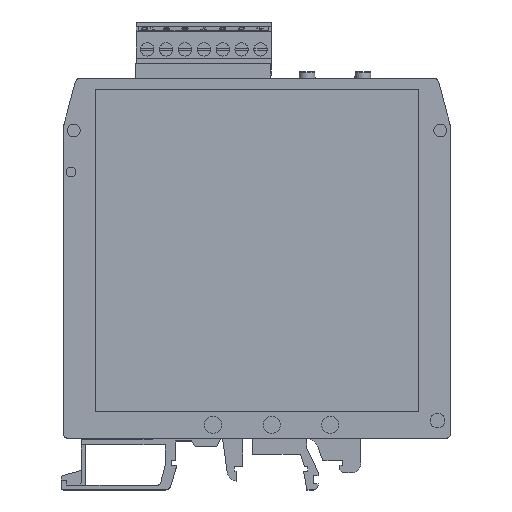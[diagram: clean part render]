
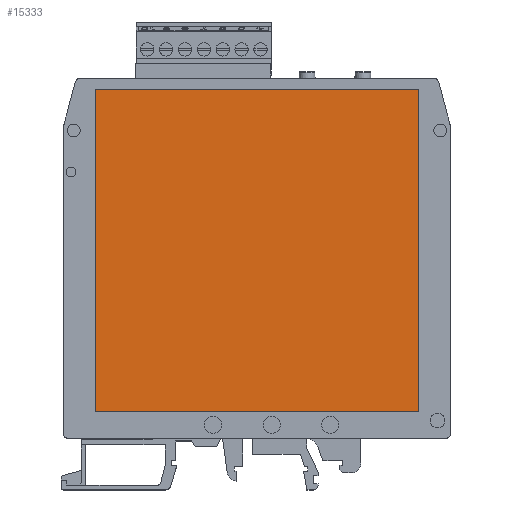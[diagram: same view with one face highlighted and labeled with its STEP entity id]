
A CAD part, top view. The second image highlights one B-rep face of the part: STEP entity #15333.
In plain terms, the highlighted planar face has unit normal (0, 0, 1).
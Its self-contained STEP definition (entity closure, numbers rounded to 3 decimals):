
#2134=ORIENTED_EDGE('',*,*,#5446,.F.);
#2135=ORIENTED_EDGE('',*,*,#5437,.F.);
#2136=ORIENTED_EDGE('',*,*,#5441,.F.);
#2137=ORIENTED_EDGE('',*,*,#5444,.F.);
#5437=EDGE_CURVE('',#7622,#7623,#9482,.T.);
#5441=EDGE_CURVE('',#7626,#7622,#9486,.T.);
#5444=EDGE_CURVE('',#7628,#7626,#9489,.T.);
#5446=EDGE_CURVE('',#7623,#7628,#9491,.T.);
#7622=VERTEX_POINT('',#27019);
#7623=VERTEX_POINT('',#27021);
#7626=VERTEX_POINT('',#27028);
#7628=VERTEX_POINT('',#27034);
#9482=LINE('',#27020,#11433);
#9486=LINE('',#27029,#11437);
#9489=LINE('',#27035,#11440);
#9491=LINE('',#27038,#11442);
#11433=VECTOR('',#21642,1000.);
#11437=VECTOR('',#21648,1000.);
#11440=VECTOR('',#21653,1000.);
#11442=VECTOR('',#21657,1000.);
#12999=EDGE_LOOP('',(#2134,#2135,#2136,#2137));
#13896=FACE_BOUND('',#12999,.T.);
#14691=PLANE('',#19575);
#15333=ADVANCED_FACE('',(#13896),#14691,.F.);
#19575=AXIS2_PLACEMENT_3D('',#27040,#21659,#21660);
#21642=DIRECTION('',(-1.,0.,0.));
#21648=DIRECTION('',(0.,-1.,0.));
#21653=DIRECTION('',(1.,0.,0.));
#21657=DIRECTION('',(0.,1.,0.));
#21659=DIRECTION('',(0.,0.,-1.));
#21660=DIRECTION('',(-1.,0.,0.));
#27019=CARTESIAN_POINT('',(-183.8,31.6,17.255));
#27020=CARTESIAN_POINT('',(-183.8,31.6,17.255));
#27021=CARTESIAN_POINT('',(-250.,31.6,17.255));
#27028=CARTESIAN_POINT('',(-183.8,97.5,17.255));
#27029=CARTESIAN_POINT('',(-183.8,97.5,17.255));
#27034=CARTESIAN_POINT('',(-250.,97.5,17.255));
#27035=CARTESIAN_POINT('',(-250.,97.5,17.255));
#27038=CARTESIAN_POINT('',(-250.,31.6,17.255));
#27040=CARTESIAN_POINT('',(-127.75,26.2,17.255));
